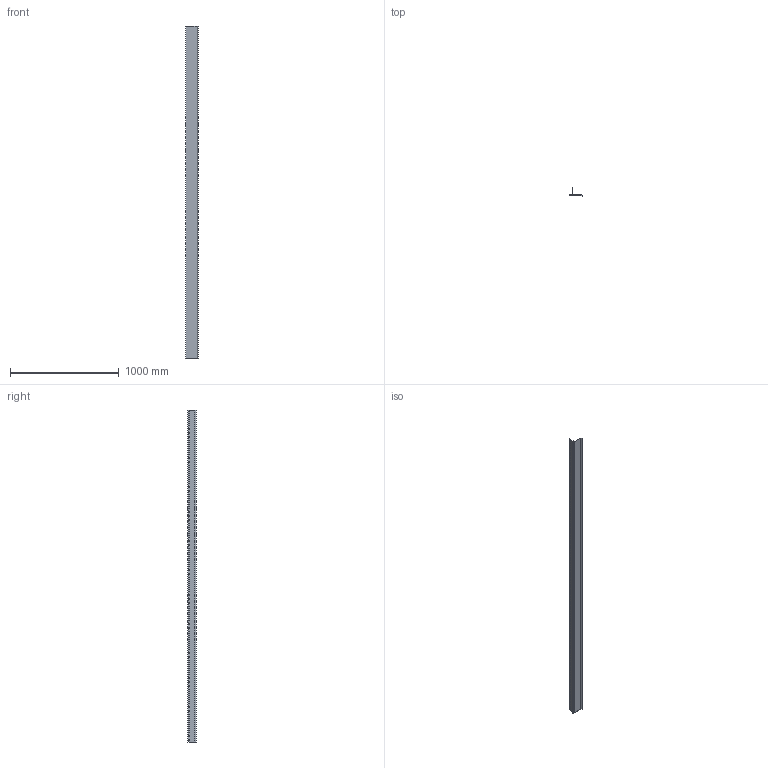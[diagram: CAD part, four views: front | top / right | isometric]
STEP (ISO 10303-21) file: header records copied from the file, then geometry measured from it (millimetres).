
FILE_DESCRIPTION(/* description */ (''),/* implementation_level */ '2;1');
FILE_NAME(/* name */ 'M56J.120.STEP',/* time_stamp */ '2026-02-03T15:47:35-05:00',/* author */ ('rodrigoangel.torresp'),/* organization */ (''),/* preprocessor_version */ 'ST-DEVELOPER v20',/* originating_system */ 'Autodesk Inventor 2025',/* authorisation */ '');
FILE_SCHEMA (('AUTOMOTIVE_DESIGN { 1 0 10303 214 3 1 1 }'));
Length unit declared in the file: inch
Products named in the file (1): M56J
Bounding box: 119.03 x 75.44 x 3048 mm (x, y, z)
Volume: 457276.3 mm3; surface area: 1805431.4 mm2
Topology: 1 solids, 1 shells, 346 faces, 1032 edges, 688 vertices
Faces by surface type: plane 176, cylinder 170
Entity records: 12081 total; most frequent: CARTESIAN_POINT 2067, DIRECTION 2066, ORIENTED_EDGE 2064, EDGE_CURVE 1032, LINE 692, VECTOR 692, VERTEX_POINT 688, AXIS2_PLACEMENT_3D 687
